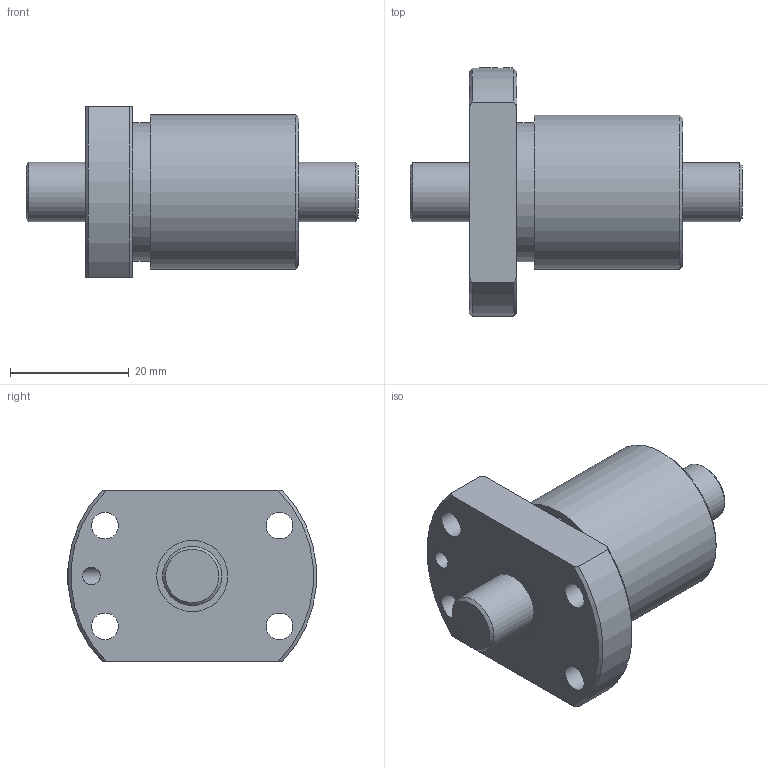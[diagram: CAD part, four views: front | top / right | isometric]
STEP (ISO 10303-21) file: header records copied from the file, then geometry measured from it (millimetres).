
FILE_DESCRIPTION(/* description */ ('STEP AP203'),/* implementation_level */ '2;1');
FILE_NAME(/* name */ 'BTK1006V-2.6ZZ+56LC7T_000',/* time_stamp */ '2025-01-16T07:55:37+01:00',/* author */ ('License CC BY-ND 4.0'),/* organization */ ('CADENAS'),/* preprocessor_version */ 'ST-DEVELOPER v19.3',/* originating_system */ 'PARTsolutions',/* authorisation */ ' ');
FILE_SCHEMA (('CONFIG_CONTROL_DESIGN'));
Length unit declared in the file: millimetre
Products named in the file (3): BTK1006V-2.6ZZ+56LC7T_000; BTK 1006V-2.600 Shaft; BTK 1006V-2.6ZZ Nut
Assembly tree (2 placements, depth 2):
  BTK1006V-2.6ZZ+56LC7T_000
    BTK 1006V-2.600 Shaft
    BTK 1006V-2.6ZZ Nut
Bounding box: 56 x 41.92 x 29 mm (x, y, z)
Volume: 24361.8 mm3; surface area: 8974.1 mm2
Topology: 2 solids, 2 shells, 35 faces, 74 edges, 48 vertices
Faces by surface type: cylinder 16, plane 12, cone 7
Full cylindrical faces by diameter (mm): 3 x3, 4.5 x4, 10 x2, 12 x2, 23.4 x1, 26 x1
Entity records: 963 total; most frequent: CARTESIAN_POINT 182, DIRECTION 156, ORIENTED_EDGE 110, AXIS2_PLACEMENT_3D 74, EDGE_LOOP 67, FACE_BOUND 67, EDGE_CURVE 55, VERTEX_POINT 46
